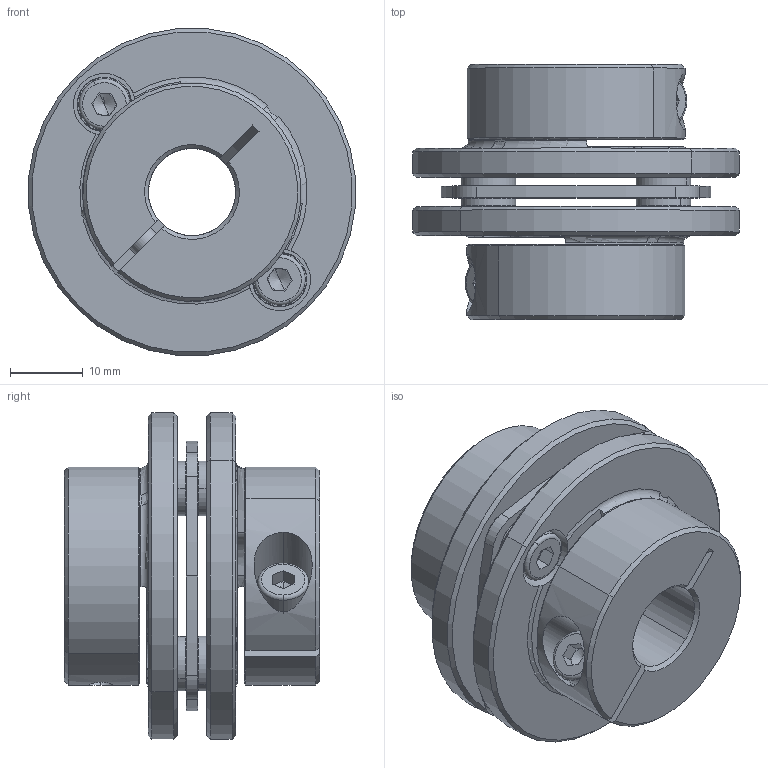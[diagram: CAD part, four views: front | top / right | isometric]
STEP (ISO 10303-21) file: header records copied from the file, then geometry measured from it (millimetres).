
FILE_DESCRIPTION (( 'STEP AP203' ), '1' );
FILE_NAME ('LE1-B-D45L35-12-12.STEP', '2021-11-01T03:07:29', ( '' ), ( '' ), 'SwSTEP 2.0', 'SolidWorks 2018', '' );
FILE_SCHEMA (( 'CONFIG_CONTROL_DESIGN' ));
Length unit declared in the file: millimetre
Products named in the file (1): LE1-B-D45L35-12-12
Bounding box: 44.83 x 35 x 44.83 mm (x, y, z)
Volume: 25089.2 mm3; surface area: 15755.8 mm2
Topology: 1 solids, 13 shells, 405 faces, 991 edges, 614 vertices
Faces by surface type: plane 136, cylinder 135, cone 114, torus 18, bspline 2
Entity records: 12432 total; most frequent: CARTESIAN_POINT 2479, DIRECTION 2247, ORIENTED_EDGE 1958, EDGE_CURVE 979, AXIS2_PLACEMENT_3D 914, VERTEX_POINT 614, CIRCLE 510, EDGE_LOOP 469
